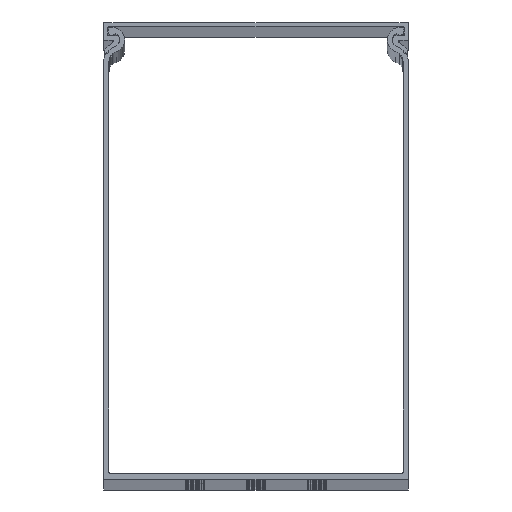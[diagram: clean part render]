
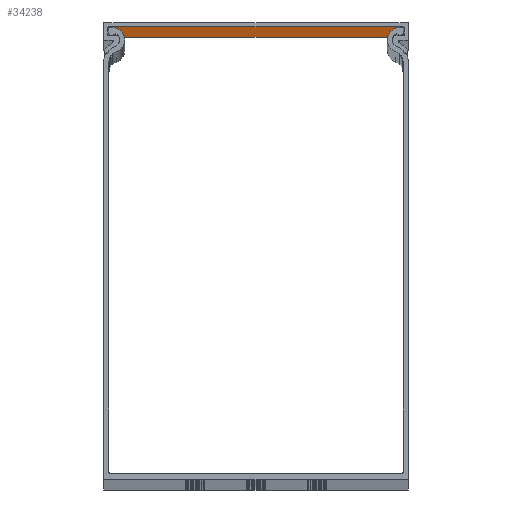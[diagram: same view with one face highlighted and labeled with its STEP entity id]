
A CAD part, top view. The second image highlights one B-rep face of the part: STEP entity #34238.
In plain terms, the highlighted planar face has unit normal (0, -1, 0).
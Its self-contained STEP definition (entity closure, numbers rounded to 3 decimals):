
#1216 = DIRECTION ( 'NONE',  ( 0., 0., -1. ) ) ;
#2577 = DIRECTION ( 'NONE',  ( 0., 0., 1. ) ) ;
#10081 = DIRECTION ( 'NONE',  ( 1., 0., 0. ) ) ;
#22464 = VERTEX_POINT ( 'NONE', #50077 ) ;
#22814 = ORIENTED_EDGE ( 'NONE', *, *, #48752, .F. ) ;
#23003 = VERTEX_POINT ( 'NONE', #69391 ) ;
#25699 = LINE ( 'NONE', #58725, #61754 ) ;
#26372 = EDGE_LOOP ( 'NONE', ( #57663, #22814, #33308, #48494 ) ) ;
#27520 = EDGE_CURVE ( 'NONE', #23003, #22464, #25699, .T. ) ;
#31178 = CARTESIAN_POINT ( 'NONE',  ( 2568.407, 1295.656, 0. ) ) ;
#31643 = EDGE_CURVE ( 'NONE', #23003, #54398, #46507, .T. ) ;
#33308 = ORIENTED_EDGE ( 'NONE', *, *, #27520, .F. ) ;
#34238 = ADVANCED_FACE ( 'NONE', ( #47146 ), #62091, .F. ) ;
#38267 = DIRECTION ( 'NONE',  ( 0., 1., 0. ) ) ;
#43681 = VECTOR ( 'NONE', #1216, 1000. ) ;
#45259 = LINE ( 'NONE', #49364, #71838 ) ;
#46507 = LINE ( 'NONE', #61254, #43681 ) ;
#47146 = FACE_OUTER_BOUND ( 'NONE', #26372, .T. ) ;
#48494 = ORIENTED_EDGE ( 'NONE', *, *, #31643, .T. ) ;
#48752 = EDGE_CURVE ( 'NONE', #22464, #67296, #45259, .T. ) ;
#49364 = CARTESIAN_POINT ( 'NONE',  ( 2616.807, 1295.656, 2000. ) ) ;
#50077 = CARTESIAN_POINT ( 'NONE',  ( 2616.807, 1295.656, 2000. ) ) ;
#51294 = EDGE_CURVE ( 'NONE', #54398, #67296, #74182, .T. ) ;
#54398 = VERTEX_POINT ( 'NONE', #58969 ) ;
#57663 = ORIENTED_EDGE ( 'NONE', *, *, #51294, .T. ) ;
#58725 = CARTESIAN_POINT ( 'NONE',  ( 2568.407, 1295.656, 2000. ) ) ;
#58897 = AXIS2_PLACEMENT_3D ( 'NONE', #74057, #38267, #2577 ) ;
#58969 = CARTESIAN_POINT ( 'NONE',  ( 2520.007, 1295.656, 0. ) ) ;
#61254 = CARTESIAN_POINT ( 'NONE',  ( 2520.007, 1295.656, 2000. ) ) ;
#61363 = DIRECTION ( 'NONE',  ( 1., 0., 0. ) ) ;
#61754 = VECTOR ( 'NONE', #10081, 1000. ) ;
#62091 = PLANE ( 'NONE',  #58897 ) ;
#67296 = VERTEX_POINT ( 'NONE', #76941 ) ;
#69391 = CARTESIAN_POINT ( 'NONE',  ( 2520.007, 1295.656, 2000. ) ) ;
#69492 = VECTOR ( 'NONE', #61363, 1000. ) ;
#71838 = VECTOR ( 'NONE', #72481, 1000. ) ;
#72481 = DIRECTION ( 'NONE',  ( 0., 0., -1. ) ) ;
#74057 = CARTESIAN_POINT ( 'NONE',  ( 2568.407, 1295.656, 2000. ) ) ;
#74182 = LINE ( 'NONE', #31178, #69492 ) ;
#76941 = CARTESIAN_POINT ( 'NONE',  ( 2616.807, 1295.656, 0. ) ) ;
